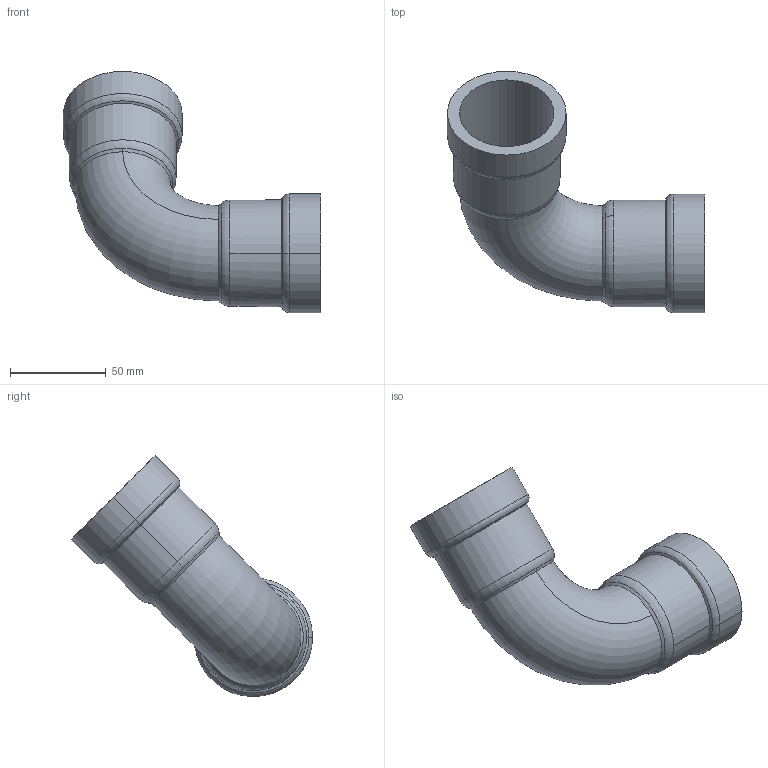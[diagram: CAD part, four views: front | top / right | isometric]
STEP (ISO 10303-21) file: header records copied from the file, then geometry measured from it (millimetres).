
FILE_DESCRIPTION(('Creo Elements/Direct Modeling STEP Export'),'2;1');
FILE_NAME('C9408_1-1-2.stp','2020-06-23T15:06:34',(''),(''),'PTC Creo Elements/Direct Modeling STEP processor for AP214 (Solid Model)','PTC Creo Elements/Direct Modeling 19.0C 15-Aug-2015 (C) Parametric Technology GmbH','');
FILE_SCHEMA(('AUTOMOTIVE_DESIGN { 1 0 10303 214 1 1 1 1 }'));
Length unit declared in the file: millimetre
Products named in the file (1): 9407_1-1-2
Bounding box: 134.4 x 126.03 x 126.03 mm (x, y, z)
Volume: 120285.9 mm3; surface area: 62668.3 mm2
Topology: 1 solids, 1 shells, 40 faces, 89 edges, 53 vertices
Faces by surface type: cylinder 16, torus 12, cone 8, plane 4
Entity records: 2475 total; most frequent: CARTESIAN_POINT 1612, ORIENTED_EDGE 178, DIRECTION 176, EDGE_CURVE 89, AXIS2_PLACEMENT_3D 76, VERTEX_POINT 53, EDGE_LOOP 44, FACE_OUTER_BOUND 40
